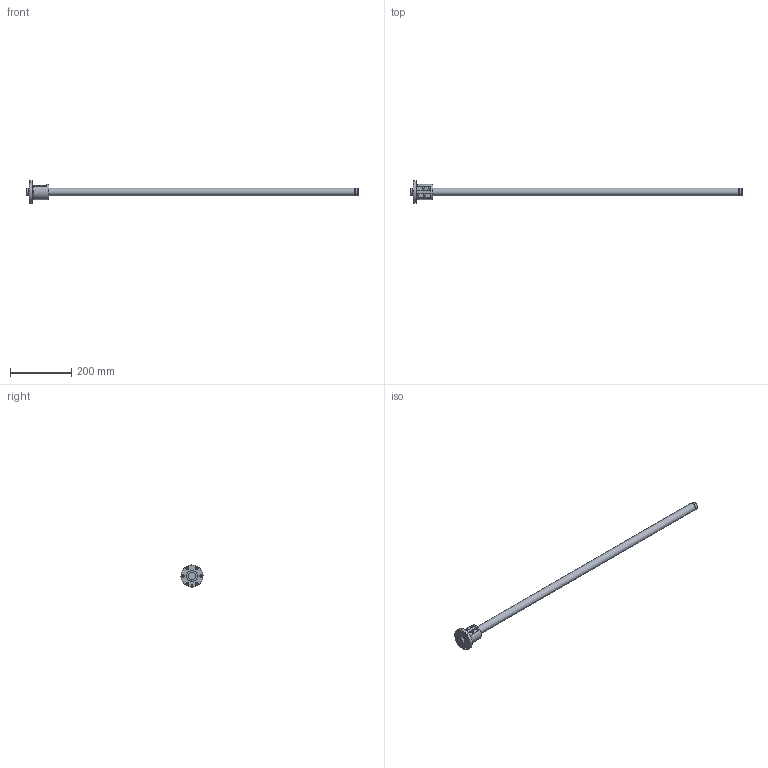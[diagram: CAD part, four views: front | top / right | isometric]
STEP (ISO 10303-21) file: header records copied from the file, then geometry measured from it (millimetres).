
FILE_DESCRIPTION( ( 'STEP AP203' ), ' ' );
FILE_NAME( 'p:/temp/worker_16/3916_4020/app_87_12018011811224479843293818fa3fd_000000_00_00_000000/format_0/BIF2505-7RRG0+1085LC0_10000.stp', '2018-01-18T10:22:46', ( '' ), ( '' ), ' ', 'PARTsolutions', ' ' );
FILE_SCHEMA( ( 'CONFIG_CONTROL_DESIGN' ) );
Length unit declared in the file: millimetre
Products named in the file (3): BIF2505-7RRG0+1085LC0_10000; _BIF 2505-7RR1000500 Shaft; _BIF 2505-7RR Nut
Assembly tree (2 placements, depth 2):
  BIF2505-7RRG0+1085LC0_10000
    _BIF 2505-7RR1000500 Shaft
    _BIF 2505-7RR Nut
Bounding box: 1085 x 73 x 73 mm (x, y, z)
Volume: 638311.1 mm3; surface area: 112562.9 mm2
Topology: 2 solids, 2 shells, 74 faces, 162 edges, 105 vertices
Faces by surface type: cylinder 35, plane 27, cone 8, torus 4
Full cylindrical faces by diameter (mm): 4.25 x2, 4.917 x1, 5.5 x6, 9.5 x6, 24.5 x2, 25 x4, 34.8 x2, 50 x1, 73 x1
Entity records: 2380 total; most frequent: CARTESIAN_POINT 733, DIRECTION 340, ORIENTED_EDGE 246, AXIS2_PLACEMENT_3D 152, EDGE_LOOP 136, EDGE_CURVE 123, FACE_OUTER_BOUND 99, VERTEX_POINT 99
